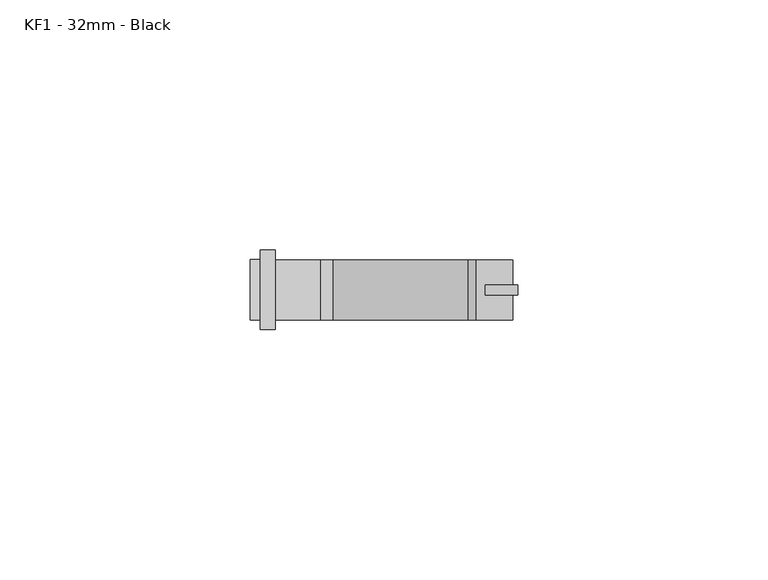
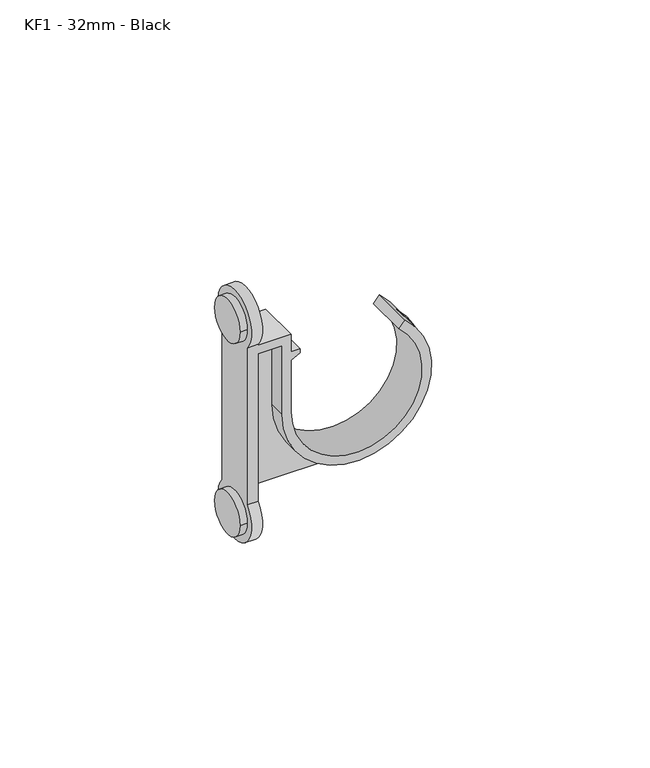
"""IFC4 building model written with IfcOpenShell, lengths in millimetres: pipe fitting geometry, MarleyPlumbingAndDrainage_PipeFitting_OpenPipeClip : KF1 - 32mm - Black."""

from ifc_helpers import new_model, si_unit, point, frame, frame_2d, origin, place, context, project, spatial, polyline, circle_curve, trimmed, segment, composite_curve, outline, extrude, source, transform, mapped, element, save
from ifc_brep_helpers import plane_surface, cylinder_surface, revolved_surface, advanced_brep


def kf1_32mm_black_6c7724f6(model_context):
    return source(origin(), model_context, "Body", "SolidModel", [
        extrude(outline(composite_curve([segment(trimmed(circle_curve(frame_2d((0.0, -17.2849064)), 20.5), [point((13.9870632, -2.2978432))], [point((-20.4755952, -16.2849064))], True, "CARTESIAN"), True, "CONTINUOUS"), segment(trimmed(circle_curve(frame_2d((0.0, -17.2849064)), 20.5), [point((-20.4755952, -16.2849064))], [point((0.0, -37.7849064))], True, "CARTESIAN"), True, "CONTINUOUS"), segment(polyline([(0.0, -37.7849064), (20.0, -37.7849064), (20.0, -44.2849064), (-21.5, -44.2849064), (-21.5, -16.2849064)]), True, "CONTINUOUS"), segment(trimmed(circle_curve(frame_2d((-1.0, -16.2849064)), 20.5), [point((-21.5, -16.2849064))], [point((13.9870632, -2.2978432))], False, "CARTESIAN"), True, "CONTINUOUS")], self_intersect=False)), frame((0.0, -1.0, 0.0), z_axis=(0.0, 1.0, 0.0), x_axis=(0.0, 0.0, 1.0)), (0.0, 0.0, 1.0), 2.0),
        advanced_brep(
        [(-49.2849064, -6.0, 28.0), (-49.2849064, 6.0, 28.0), (-49.2849064, -6.0, -28.0), (-49.2849064, 6.0, -28.0), (-47.2849064, 6.0, 28.0), (-47.2849064, -6.0, 28.0), (-47.2849064, 6.0, -28.0), (-47.2849064, -6.0, -28.0), (-44.2849064, -6.0, -22.7084974), (-44.2849064, 6.0, -22.7084974), (-44.2849064, 6.0, 20.0), (-44.2849064, -6.0, 20.0), (-44.2849064, 6.0, 22.7084974), (-44.2849064, -6.0, 22.7084974), (-44.2849064, -6.0, 22.5), (-44.2849064, 6.0, 22.5), (-47.2849064, -6.0, 22.7084974), (-47.2849064, 6.0, 22.7084974), (-47.2849064, 6.0, -22.7084974), (-47.2849064, -6.0, -22.7084974), (-37.7849064, -6.0, 20.0), (-37.7849064, -6.0, 0.0), (-4.1077604, -6.0, 15.7039111), (-5.7147294, -6.0, 13.7888), (-35.2849064, -6.0, 0.0), (-35.2849064, -6.0, 15.0), (-32.7849064, -6.0, 16.25), (-32.7849064, -6.0, 17.5), (-35.2849064, -6.0, 17.5), (-35.2849064, -6.0, 22.5), (-35.2849064, 6.0, 22.5), (-35.2849064, 6.0, 17.5), (-32.7849064, 6.0, 17.5), (-32.7849064, 6.0, 16.25), (-35.2849064, 6.0, 15.0), (-35.2849064, 6.0, 0.0), (-5.7147294, 6.0, 13.7888), (-4.1077604, 6.0, 15.7039111), (-37.7849064, 6.0, 0.0), (-37.7849064, 6.0, 20.0)],
        [
            (0, 1, circle_curve(frame((-49.2849064, 0.0, 28.0), z_axis=(-1.0, 0.0, 0.0), x_axis=(0.0, 1.0, 0.0)), 6.0)),
            (1, 0, circle_curve(frame((-49.2849064, 0.0, 28.0), z_axis=(-1.0, 0.0, 0.0), x_axis=(0.0, 1.0, 0.0)), 6.0)),
            (2, 3, circle_curve(frame((-49.2849064, 0.0, -28.0), z_axis=(-1.0, 0.0, 0.0), x_axis=(0.0, 1.0, 0.0)), 6.0)),
            (3, 2, circle_curve(frame((-49.2849064, 0.0, -28.0), z_axis=(-1.0, 0.0, 0.0), x_axis=(0.0, 1.0, 0.0)), 6.0)),
            (1, 4),
            (4, 5, circle_curve(frame((-47.2849064, 0.0, 28.0), z_axis=(-1.0, 0.0, 0.0), x_axis=(0.0, 1.0, 0.0)), 6.0)),
            (5, 0),
            (5, 4, circle_curve(frame((-47.2849064, 0.0, 28.0), z_axis=(-1.0, 0.0, 0.0), x_axis=(0.0, 1.0, 0.0)), 6.0)),
            (3, 6),
            (6, 7, circle_curve(frame((-47.2849064, 0.0, -28.0), z_axis=(-1.0, 0.0, 0.0), x_axis=(0.0, 1.0, 0.0)), 6.0)),
            (7, 2),
            (7, 6, circle_curve(frame((-47.2849064, 0.0, -28.0), z_axis=(-1.0, 0.0, 0.0), x_axis=(0.0, 1.0, 0.0)), 6.0)),
            (8, 9, circle_curve(frame((-44.2849064, 0.0, -28.0), z_axis=(1.0, 0.0, 0.0), x_axis=(0.0, 1.0, 0.0)), 8.0)),
            (9, 10),
            (10, 11),
            (11, 8),
            (12, 13, circle_curve(frame((-44.2849064, 0.0, 28.0), z_axis=(1.0, 0.0, 0.0), x_axis=(0.0, 1.0, 0.0)), 8.0)),
            (13, 14),
            (14, 15),
            (15, 12),
            (16, 17, circle_curve(frame((-47.2849064, 0.0, 28.0), z_axis=(-1.0, 0.0, 0.0), x_axis=(0.0, 1.0, 0.0)), 8.0)),
            (17, 18),
            (18, 19, circle_curve(frame((-47.2849064, 0.0, -28.0), z_axis=(-1.0, 0.0, 0.0), x_axis=(0.0, 1.0, 0.0)), 8.0)),
            (19, 16),
            (19, 8),
            (11, 20),
            (20, 21),
            (21, 22, circle_curve(frame((-17.2849064, -6.0, 0.0), z_axis=(0.0, -1.0, 0.0), x_axis=(1.0, 0.0, 0.0)), 20.5)),
            (22, 23),
            (23, 24, circle_curve(frame((-17.2849064, -6.0, 0.0), z_axis=(0.0, 1.0, 0.0), x_axis=(1.0, 0.0, 0.0)), 18.0)),
            (24, 25),
            (25, 26),
            (26, 27),
            (27, 28),
            (28, 29),
            (29, 14),
            (13, 16),
            (18, 9),
            (17, 12),
            (15, 30),
            (30, 31),
            (31, 32),
            (32, 33),
            (33, 34),
            (34, 35),
            (35, 36, circle_curve(frame((-17.2849064, 6.0, 0.0), z_axis=(0.0, -1.0, 0.0), x_axis=(1.0, 0.0, 0.0)), 18.0)),
            (36, 37),
            (37, 38, circle_curve(frame((-17.2849064, 6.0, 0.0), z_axis=(0.0, 1.0, 0.0), x_axis=(1.0, 0.0, 0.0)), 20.5)),
            (38, 39),
            (39, 10),
            (21, 38),
            (37, 22),
            (23, 36),
            (35, 24),
            (28, 31),
            (30, 29),
            (39, 20),
            (34, 25),
            (26, 33),
            (32, 27),
        ],
        [
            plane_surface(frame((-49.2849064, 6.0, 28.0), z_axis=(-1.0, 0.0, 0.0), x_axis=(0.0, 0.0, -1.0))),
            cylinder_surface(frame((-49.2849064, 0.0, 28.0), z_axis=(1.0, 0.0, 0.0), x_axis=(0.0, 1.0, 0.0)), 6.0),
            cylinder_surface(frame((-17.2849064, 0.0, -28.0), z_axis=(1.0, 0.0, 0.0), x_axis=(0.0, 1.0, 0.0)), 6.0),
            plane_surface(frame((-44.2849064, -6.0, 22.7084974), z_axis=(1.0, 0.0, 0.0), x_axis=(0.0, 0.0, -1.0))),
            plane_surface(frame((-47.2849064, -6.0, 22.7084974), z_axis=(-1.0, 0.0, 0.0), x_axis=(0.0, 0.0, 1.0))),
            plane_surface(frame((-44.2849064, -6.0, 22.7084974), z_axis=(0.0, -1.0, 0.0), x_axis=(-1.0, 0.0, 0.0))),
            cylinder_surface(frame((-47.2849064, 0.0, -28.0), z_axis=(1.0, 0.0, 0.0), x_axis=(0.0, 1.0, 0.0)), 8.0),
            plane_surface(frame((-44.2849064, 6.0, -22.7084974), z_axis=(0.0, 1.0, 0.0), x_axis=(-1.0, 0.0, 0.0))),
            cylinder_surface(frame((-47.2849064, 0.0, 28.0), z_axis=(1.0, 0.0, 0.0), x_axis=(0.0, 1.0, 0.0)), 8.0),
            cylinder_surface(frame((-17.2849064, 6.0, 0.0), z_axis=(0.0, -1.0, 0.0), x_axis=(1.0, 0.0, 0.0)), 20.5),
            revolved_surface(polyline([(0.7150935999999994, 6.0, 0.0), (0.7150935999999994, -6.0, 0.0)]), (-17.2849064, 6.0, 0.0), (0.0, 1.0, 0.0)),
            plane_surface(frame((-35.2849064, -6.0, 17.5), z_axis=(1.0, 0.0, 0.0), x_axis=(0.0, 1.0, 0.0))),
            plane_surface(frame((-35.2849064, -6.0, 22.5), z_axis=(0.0, 0.0, 1.0), x_axis=(0.0, 1.0, 0.0))),
            plane_surface(frame((-44.2849064, -6.0, 20.0), z_axis=(0.0, 0.0, -1.0), x_axis=(0.0, 1.0, 0.0))),
            plane_surface(frame((-37.7849064, -6.0, 20.0), z_axis=(-1.0, 0.0, 0.0), x_axis=(0.0, 1.0, 0.0))),
            plane_surface(frame((-35.2849064, -6.0, 0.0), z_axis=(1.0, 0.0, 0.0), x_axis=(0.0, 1.0, 0.0))),
            plane_surface(frame((-32.7849064, -6.0, 16.25), z_axis=(1.0, 0.0, 0.0), x_axis=(0.0, 1.0, 0.0))),
            plane_surface(frame((-32.7849064, -6.0, 17.5), z_axis=(0.0, 0.0, 1.0), x_axis=(0.0, 1.0, 0.0))),
            plane_surface(frame((-4.1077604, -6.0, 15.7039111), z_axis=(-0.7660444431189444, 0.0, 0.6427876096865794), x_axis=(0.0, 1.0, 0.0))),
            plane_surface(frame((-35.2849064, -6.0, 15.0), z_axis=(0.44721359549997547, 0.0, -0.8944271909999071), x_axis=(0.0, 1.0, 0.0))),
        ],
        [
            (0, [[1, 2]]),
            (0, [[3, 4]]),
            (1, [[-2, 5, 6, 7]]),
            (1, [[-1, -7, 8, -5]]),
            (2, [[-4, 9, 10, 11]]),
            (2, [[-3, -11, 12, -9]]),
            (3, [[13, 14, 15, 16]]),
            (3, [[17, 18, 19, 20]]),
            (4, [[21, 22, 23, 24], [-6, -8], [-10, -12]]),
            (5, [[-24, 25, -16, 26, 27, 28, 29, 30, 31, 32, 33, 34, 35, 36, -18, 37]]),
            (6, [[-13, -25, -23, 38]]),
            (7, [[-22, 39, -20, 40, 41, 42, 43, 44, 45, 46, 47, 48, 49, 50, -14, -38]]),
            (8, [[-17, -39, -21, -37]]),
            (9, [[-28, 51, -48, 52]]),
            (10, [[-30, 53, -46, 54]]),
            (11, [[-35, 55, -41, 56]]),
            (12, [[-36, -56, -40, -19]]),
            (13, [[-26, -15, -50, 57]]),
            (14, [[-27, -57, -49, -51]]),
            (15, [[-31, -54, -45, 58]]),
            (16, [[-33, 59, -43, 60]]),
            (17, [[-34, -60, -42, -55]]),
            (18, [[-29, -52, -47, -53]]),
            (19, [[-32, -58, -44, -59]]),
        ],
    ),
    ])


if __name__ == "__main__":
    model = new_model("IFC4")
    model_context = context("Model", 3, world=origin())
    ifc_project = project(units=[si_unit("LENGTHUNIT", "METRE", prefix="MILLI")], contexts=[model_context])
    site = spatial("IfcSite", under=ifc_project)
    building = spatial("IfcBuilding", under=site)
    placement = place(None, origin())
    kf1_32mm_black_shape = kf1_32mm_black_6c7724f6(model_context)
    element("IfcPipeFitting", 1, ObjectType="MarleyPlumbingAndDrainage_PipeFitting_OpenPipeClip : KF1 - 32mm - Black", at=placement, inside=building, context=model_context, shape_type="MappedRepresentation", body=[
        mapped(kf1_32mm_black_shape, transform((0.0, 0.0, 0.0), x_axis=(1.0, 0.0, 0.0), y_axis=(0.0, 1.0, 0.0), z_axis=(0.0, 0.0, 1.0))),
    ])
    save(model, "model.ifc")
